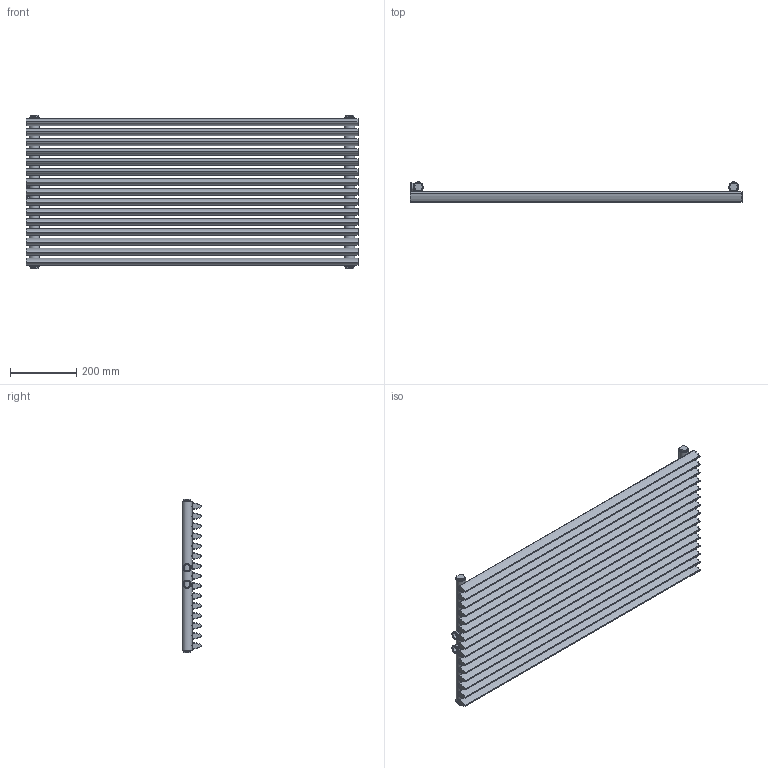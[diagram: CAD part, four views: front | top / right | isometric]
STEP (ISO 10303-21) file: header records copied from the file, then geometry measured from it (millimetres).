
FILE_DESCRIPTION(/* description */ (''),/* implementation_level */ '2;1');
FILE_NAME(/* name */ 'C:\Grzejniki\13DLUXRAD\pokojowe\AURORA\AURORA 1000x450.iam.stp',/* time_stamp */ '2016-06-28T17:31:32+02:00',/* author */ ('m.szydziak'),/* organization */ (''),/* preprocessor_version */ 'ST-DEVELOPER v16.5',/* originating_system */ 'Autodesk Inventor 2017',/* authorisation */ '');
FILE_SCHEMA (('AUTOMOTIVE_DESIGN { 1 0 10303 214 3 1 1 }'));
Length unit declared in the file: millimetre
Products named in the file (6): AURORA 1000x450; fi30x1,5x450; 30x20x1,2x1000; ZDC dzwonki; dzwonek G0,5inch; korek
Assembly tree (24 placements, depth 3):
  AURORA 1000x450
    fi30x1,5x450  x2
    30x20x1,2x1000  x15
    ZDC dzwonki
      dzwonek G0,5inch  x2
    korek  x4
Bounding box: 1000 x 59.99 x 462 mm (x, y, z)
Volume: 1512772.2 mm3; surface area: 2466939.4 mm2
Topology: 23 solids, 23 shells, 368 faces, 976 edges, 692 vertices
Faces by surface type: cylinder 232, plane 132, cone 2, bspline 2
Full cylindrical faces by diameter (mm): 5 x30, 6 x30, 16 x2, 18.5 x2, 18.631 x6, 22.9 x2, 24 x4, 25.3 x2, 27 x2, 30 x2
Entity records: 3338 total; most frequent: CARTESIAN_POINT 1536, DIRECTION 330, ORIENTED_EDGE 280, AXIS2_PLACEMENT_3D 148, EDGE_CURVE 140, EDGE_LOOP 135, VERTEX_POINT 117, FACE_BOUND 70
